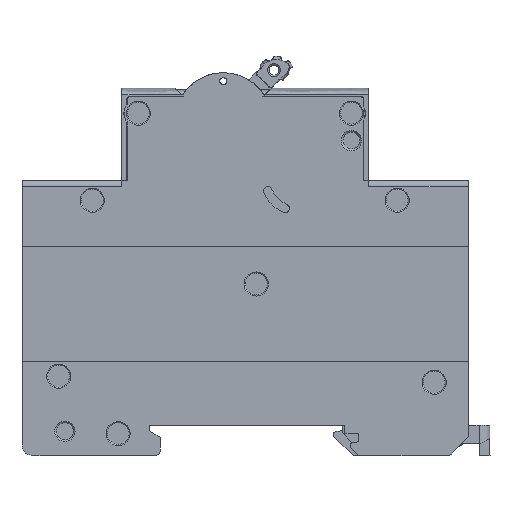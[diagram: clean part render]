
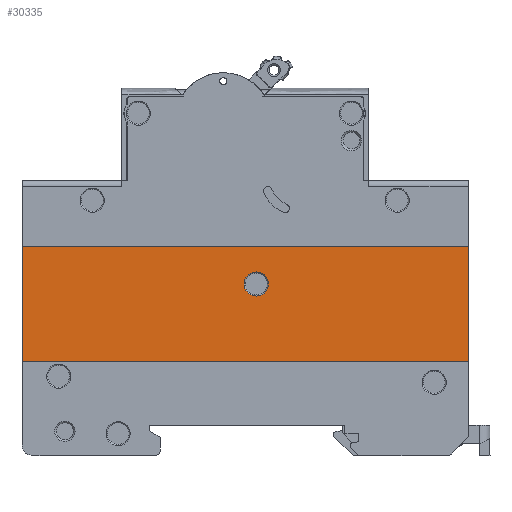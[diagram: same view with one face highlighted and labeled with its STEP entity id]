
A CAD part, left-side view. The second image highlights one B-rep face of the part: STEP entity #30335.
In plain terms, the highlighted planar face has unit normal (-1, 0, 0).
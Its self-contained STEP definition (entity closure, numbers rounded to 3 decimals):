
#1573 = AXIS2_PLACEMENT_3D ( 'NONE', #38765, #22160, #14277 ) ;
#2069 = VERTEX_POINT ( 'NONE', #13120 ) ;
#2184 = EDGE_LOOP ( 'NONE', ( #43468, #20959 ) ) ;
#2373 = ORIENTED_EDGE ( 'NONE', *, *, #16152, .F. ) ;
#3075 = FACE_OUTER_BOUND ( 'NONE', #44883, .T. ) ;
#4119 = AXIS2_PLACEMENT_3D ( 'NONE', #15009, #26984, #6555 ) ;
#4492 = EDGE_CURVE ( 'NONE', #50750, #37559, #18669, .T. ) ;
#4743 = CARTESIAN_POINT ( 'NONE',  ( -0.8, 81.5, -12.005 ) ) ;
#4977 = CIRCLE ( 'NONE', #4119, 2.2 ) ;
#6424 = DIRECTION ( 'NONE',  ( 0., 1., 0. ) ) ;
#6555 = DIRECTION ( 'NONE',  ( 0., 1., 0. ) ) ;
#8845 = LINE ( 'NONE', #4743, #10321 ) ;
#10274 = CARTESIAN_POINT ( 'NONE',  ( -0.8, 0., -12.005 ) ) ;
#10321 = VECTOR ( 'NONE', #21890, 1000. ) ;
#10511 = ORIENTED_EDGE ( 'NONE', *, *, #26709, .F. ) ;
#10887 = CARTESIAN_POINT ( 'NONE',  ( -0.8, 0., -33.005 ) ) ;
#11529 = FACE_BOUND ( 'NONE', #2184, .T. ) ;
#13120 = CARTESIAN_POINT ( 'NONE',  ( -0.8, 36.523, -18.864 ) ) ;
#14277 = DIRECTION ( 'NONE',  ( 0., 1., 0. ) ) ;
#14819 = AXIS2_PLACEMENT_3D ( 'NONE', #52895, #15602, #24032 ) ;
#15009 = CARTESIAN_POINT ( 'NONE',  ( -0.8, 38.723, -18.864 ) ) ;
#15602 = DIRECTION ( 'NONE',  ( 1., 0., 0. ) ) ;
#16152 = EDGE_CURVE ( 'NONE', #41796, #50750, #43195, .T. ) ;
#16631 = VERTEX_POINT ( 'NONE', #23525 ) ;
#18222 = VECTOR ( 'NONE', #29063, 1000. ) ;
#18669 = LINE ( 'NONE', #31189, #29269 ) ;
#19672 = PLANE ( 'NONE',  #14819 ) ;
#19889 = CARTESIAN_POINT ( 'NONE',  ( -0.8, 0., -12.005 ) ) ;
#20959 = ORIENTED_EDGE ( 'NONE', *, *, #34562, .T. ) ;
#21890 = DIRECTION ( 'NONE',  ( 0., -1., 0. ) ) ;
#22160 = DIRECTION ( 'NONE',  ( 1., 0., 0. ) ) ;
#22584 = CARTESIAN_POINT ( 'NONE',  ( -0.8, 40.923, -18.864 ) ) ;
#23525 = CARTESIAN_POINT ( 'NONE',  ( -0.8, 81.5, -12.005 ) ) ;
#24032 = DIRECTION ( 'NONE',  ( 0., 1., 0. ) ) ;
#24131 = CIRCLE ( 'NONE', #1573, 2.2 ) ;
#26709 = EDGE_CURVE ( 'NONE', #16631, #41796, #8845, .T. ) ;
#26984 = DIRECTION ( 'NONE',  ( 1., 0., 0. ) ) ;
#29063 = DIRECTION ( 'NONE',  ( 0., 0., 1. ) ) ;
#29269 = VECTOR ( 'NONE', #6424, 1000. ) ;
#30335 = ADVANCED_FACE ( 'NONE', ( #11529, #3075 ), #19672, .F. ) ;
#31189 = CARTESIAN_POINT ( 'NONE',  ( -0.8, 0., -33.005 ) ) ;
#31244 = CARTESIAN_POINT ( 'NONE',  ( -0.8, 81.5, -33.005 ) ) ;
#34562 = EDGE_CURVE ( 'NONE', #40860, #2069, #4977, .T. ) ;
#35039 = ORIENTED_EDGE ( 'NONE', *, *, #47839, .F. ) ;
#35043 = EDGE_CURVE ( 'NONE', #2069, #40860, #24131, .T. ) ;
#36948 = LINE ( 'NONE', #53312, #18222 ) ;
#37559 = VERTEX_POINT ( 'NONE', #31244 ) ;
#38765 = CARTESIAN_POINT ( 'NONE',  ( -0.8, 38.723, -18.864 ) ) ;
#40860 = VERTEX_POINT ( 'NONE', #22584 ) ;
#41796 = VERTEX_POINT ( 'NONE', #19889 ) ;
#43195 = LINE ( 'NONE', #10274, #52586 ) ;
#43468 = ORIENTED_EDGE ( 'NONE', *, *, #35043, .T. ) ;
#44883 = EDGE_LOOP ( 'NONE', ( #50372, #2373, #10511, #35039 ) ) ;
#47839 = EDGE_CURVE ( 'NONE', #37559, #16631, #36948, .T. ) ;
#50372 = ORIENTED_EDGE ( 'NONE', *, *, #4492, .F. ) ;
#50750 = VERTEX_POINT ( 'NONE', #10887 ) ;
#51656 = DIRECTION ( 'NONE',  ( 0., 0., -1. ) ) ;
#52586 = VECTOR ( 'NONE', #51656, 1000. ) ;
#52895 = CARTESIAN_POINT ( 'NONE',  ( -0.8, 0., -34.08 ) ) ;
#53312 = CARTESIAN_POINT ( 'NONE',  ( -0.8, 81.5, -33.005 ) ) ;
